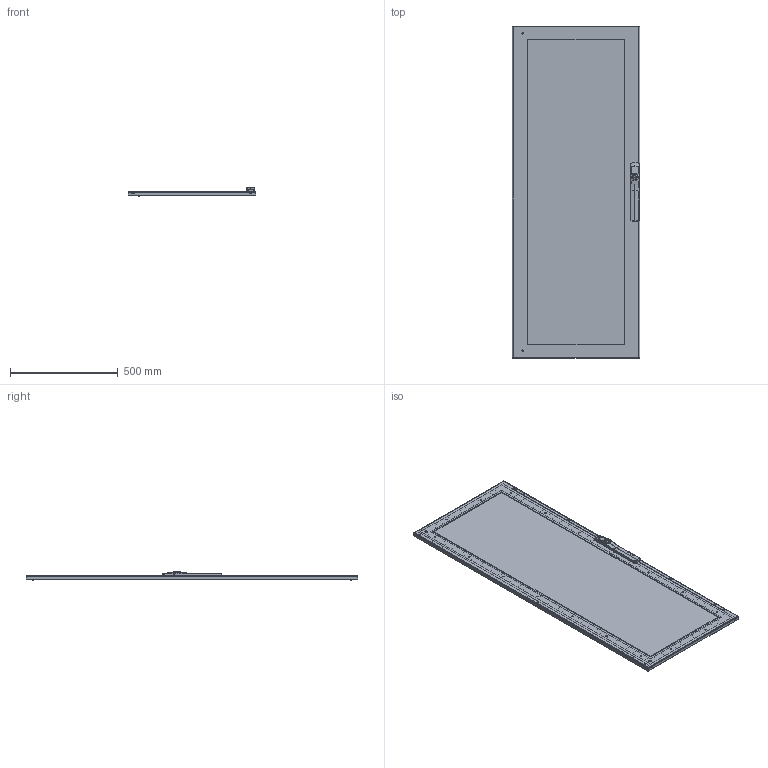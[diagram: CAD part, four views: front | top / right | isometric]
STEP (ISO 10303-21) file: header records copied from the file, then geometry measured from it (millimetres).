
FILE_DESCRIPTION (( 'STEP AP203' ), '1' );
FILE_NAME ('pdw166.STEP', '2014-01-31T17:43:07', ( 'User' ), ( 'Pentair Inc' ), 'SwSTEP 2.0', 'SolidWorks 2010', '' );
FILE_SCHEMA (( 'CONFIG_CONTROL_DESIGN' ));
Products named in the file (36): 60127175_60127175; 60127216_60127216; 60127140_60127140; 60127138_60127138; 87576035_87576035; 60127139_60127139; 11158132_THIKNESS .155 FIXED; 11158133_11581133; 87792981; 87792979; 60127256_60127256; 87798947_87798947; 60127182_60127182; 60127208; 60127207; 60127212; 60127277_60127277; 51232001_51232001; 60127173_60127173; 89107076_87412773; 89107069_87412782; 60127287_60127287; 99411237_99411237; pdw166; 89107060_87950561; 89107030_87545436; 60127101_After Weld; 60100041_60100041; 87931527_87931527; 87931368_SLEEVE; 60127172_60127172; 89107106_87950581; 99401225; 89107124; 60127222_60127224; 60127104_60127106
Assembly tree (95 placements, depth 4):
  pdw166
    99411237_99411237  x18
    89107060_87950561
      99401225  x18
      60127172_60127172  x3
      89107030_87545436
      60100041_60100041  x2
        87931368_SLEEVE
        87931527_87931527
      89107106_87950581
      60127101_After Weld  x3
      89107124
    60127277_60127277  x3
      60127173_60127173
      51232001_51232001
    60127287_60127287
    60127256_60127256
      60127212
      60127207
      60127208
      60127182_60127182
      87798947_87798947
    89107069_87412782  x2
    60127222_60127224
      11158132_THIKNESS .155 FIXED  x8
      60127139_60127139  x4
      60127104_60127106
      60127216_60127216  x3
        87576035_87576035
        60127138_60127138
        60127140_60127140
      60127175_60127175  x2
      11158133_11581133  x3
    89107076_87412773  x2
    87792979  x2
    87792981  x2
Bounding box: 591.8 x 1539.02 x 41.86 mm (x, y, z)
Volume: 5134651.9 mm3; surface area: 2690464.6 mm2
Topology: 96 solids, 96 shells, 3276 faces, 7844 edges, 4798 vertices
Faces by surface type: plane 1261, cylinder 943, cone 507, torus 280, bspline 255, sphere 30
Entity records: 52336 total; most frequent: CARTESIAN_POINT 12558, ORIENTED_EDGE 7222, DIRECTION 7098, EDGE_CURVE 3611, AXIS2_PLACEMENT_3D 2624, VERTEX_POINT 2256, LINE 1850, VECTOR 1850
